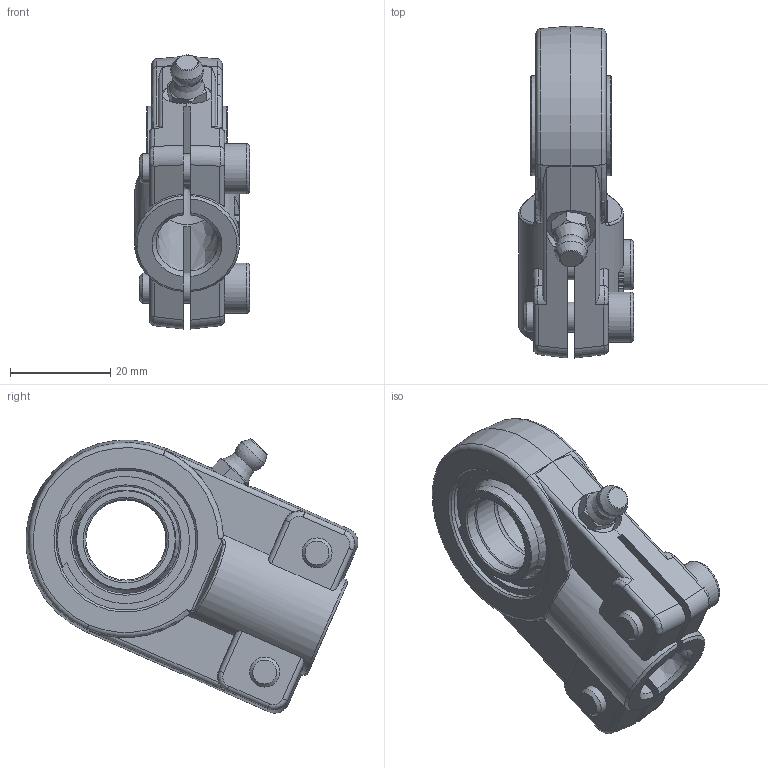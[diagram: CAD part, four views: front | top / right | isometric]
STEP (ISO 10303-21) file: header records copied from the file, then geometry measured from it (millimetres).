
FILE_DESCRIPTION((''),'2;1');
FILE_NAME('H:\WSW\Hydraulikgelenkköpfe\Aktuelle GK Zeichnungen andere Formate\WAPR..CE\WAPR..CE .STP\K-WAPR16CE.stp','2007-12-21T10:55:54',('oliver.joswig'),(''),'Autodesk Inventor 2008','Autodesk Inventor 2008','');
FILE_SCHEMA(('AUTOMOTIVE_DESIGN { 1 0 10303 214 1 1 1 1 }'));
Length unit declared in the file: millimetre
Products named in the file (7): K-WAPR16CE; GEEW_ES_IR mit Nut [Benennung=IR16LO][Breite=16 mm][Kugel=11,5 mm][Bund_D=10 mm][Freid_b=2,4 mm][Freid_D=8,25 mm][Bohr=8 mm][Fase=45 grd][R_rs=0,3 mm]; GEEW_ES_AR mit Nut [Benennung=AR_GEEW16ES][Kugel_dk=11,5mm][Breite=9mm][Radius_r1s=0,3mm][Aussendurchmessser=14mm]; F-WAPR16CE; SB_Ringe [Benennung=NG16LO][Breite=1,7 mm][Aussendurchmesser=28,8 mm][T_Dicke=1,2 mm]; DIN 71412  A  (Regelgewinde) AM 6 (keg kurz); DIN EN ISO 4762  (Regelgewinde) M6 x 16
Assembly tree (8 placements, depth 2):
  K-WAPR16CE
    GEEW_ES_IR mit Nut [Benennung=IR16LO][Breite=16 mm][Kugel=11,5 mm][Bund_D=10 mm][Freid_b=2,4 mm][Freid_D=8,25 mm][Bohr=8 mm][Fase=45 grd][R_rs=0,3 mm]
    GEEW_ES_AR mit Nut [Benennung=AR_GEEW16ES][Kugel_dk=11,5mm][Breite=9mm][Radius_r1s=0,3mm][Aussendurchmessser=14mm]
    F-WAPR16CE
    SB_Ringe [Benennung=NG16LO][Breite=1,7 mm][Aussendurchmesser=28,8 mm][T_Dicke=1,2 mm]  x2
    DIN 71412  A  (Regelgewinde) AM 6 (keg kurz)
    DIN EN ISO 4762  (Regelgewinde) M6 x 16  x2
Bounding box: 23 x 66.33 x 54.77 mm (x, y, z)
Volume: 26752.6 mm3; surface area: 16631.3 mm2
Topology: 8 solids, 8 shells, 283 faces, 702 edges, 445 vertices
Faces by surface type: plane 126, cylinder 66, cone 38, bspline 35, torus 15, sphere 3
Full cylindrical faces by diameter (mm): 0.83 x2, 1.185 x2, 3 x1, 6 x3, 10 x2, 16 x2, 16.5 x2, 20 x2, 27.446 x1, 28 x5, 28.8 x2
Entity records: 10305 total; most frequent: CARTESIAN_POINT 4292, ORIENTED_EDGE 1176, DIRECTION 1170, EDGE_CURVE 588, AXIS2_PLACEMENT_3D 456, VERTEX_POINT 404, EDGE_LOOP 354, FACE_OUTER_BOUND 263
